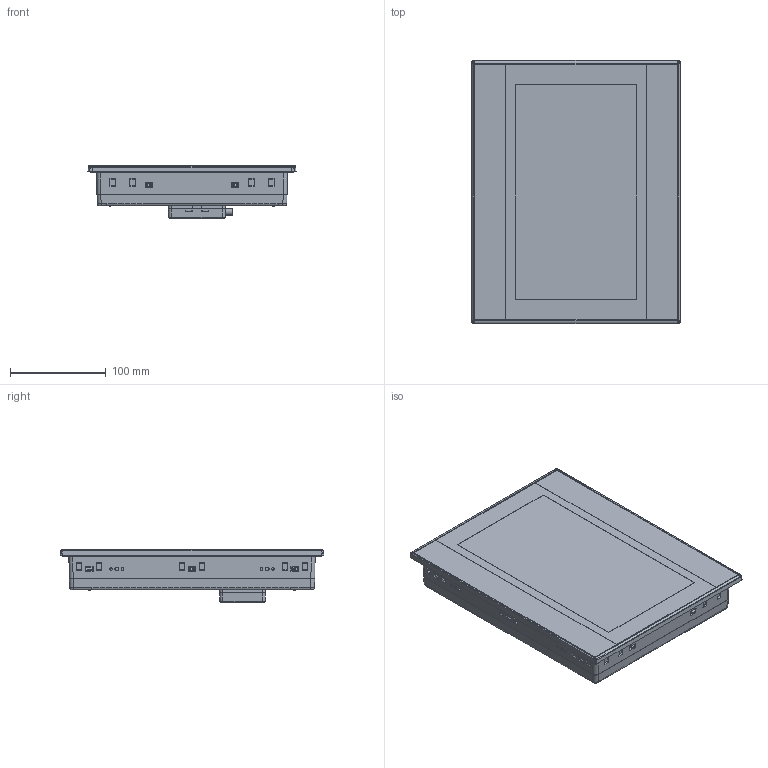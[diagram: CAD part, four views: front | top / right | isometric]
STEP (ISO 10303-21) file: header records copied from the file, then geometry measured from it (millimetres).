
FILE_DESCRIPTION( ('This file contains a STEP AP42 implementation' ,'as created by ZW3D STEP Interface translator.') ,'2;1' );
FILE_NAME( 'HC-10.1C.stp' ,'24 415.15 528', (''), ('ZWCAD Software Co.'), 'Version 1.0', 'ZW3D to STEP translator', '' );
FILE_SCHEMA(('AUTOMOTIVE_DESIGN { 1 0 10303 214 1 1 1 1 }'));
Length unit declared in the file: millimetre
Products named in the file (2): 0; HC-10.1C001
Bounding box: 218 x 276 x 55.2 mm (x, y, z)
Volume: 1905985.5 mm3; surface area: 392324.5 mm2
Topology: 4 solids, 61 shells, 2994 faces, 9445 edges, 6953 vertices
Faces by surface type: plane 2179, cylinder 496, bspline 208, cone 42, torus 38, sphere 31
Full cylindrical faces by diameter (mm): 1 x9, 3 x6, 3.2 x2, 3.5 x3, 6.5 x4
Entity records: 115053 total; most frequent: CARTESIAN_POINT 32574, ORIENTED_EDGE 17994, DIRECTION 14213, EDGE_CURVE 8997, VECTOR 6367, LINE 6367, VERTEX_POINT 6101, AXIS2_PLACEMENT_3D 3923
